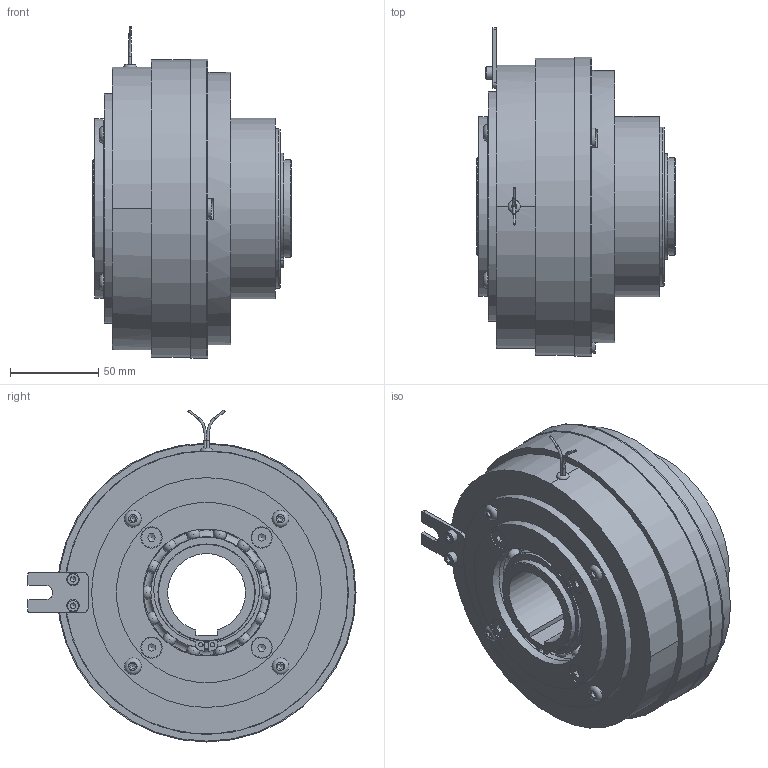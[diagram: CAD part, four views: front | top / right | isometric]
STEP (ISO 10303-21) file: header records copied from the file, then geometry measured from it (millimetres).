
FILE_DESCRIPTION(/* description */ (''),/* implementation_level */ '2;1');
FILE_NAME(/* name */ 'X:\INVENTOR\DISEGNI\08_Freni_Friz_Elettmag_Monodisco\08_26 EMSL_DF\EMSL_DF STEP\08_26_170_41 EMSL170_DF-R@STEP.stp',/* time_stamp */ '2018-04-24T09:49:33+02:00',/* author */ ('stefano'),/* organization */ (''),/* preprocessor_version */ 'ST-DEVELOPER v17',/* originating_system */ 'Autodesk Inventor 2018',/* authorisation */ '');
FILE_SCHEMA (('AUTOMOTIVE_DESIGN { 1 0 10303 214 3 1 1 }'));
Length unit declared in the file: millimetre
Products named in the file (1): 08_26_170_41 EMSL170_DF-R_Substitute_1
Bounding box: 112 x 185.5 x 187.72 mm (x, y, z)
Volume: 1241792.9 mm3; surface area: 302544.1 mm2
Topology: 2 solids, 2 shells, 729 faces, 2418 edges, 1642 vertices
Faces by surface type: plane 258, cylinder 238, torus 126, cone 55, sphere 50, bspline 2
Full cylindrical faces by diameter (mm): 1.154 x2, 1.5 x4, 2.5 x4, 3.5 x2, 4.917 x7, 6 x12, 6.5 x4, 6.647 x3, 7 x2, 9.5 x4, 10 x3, 10.5 x4, 11 x6, 11.34 x4, 12 x7, 52 x2, 55 x5, 63 x5, 66 x1, 66.2 x4, 72 x6, 78.8 x4, 80 x2, 90 x4, 92 x1, 99.5 x1, 100 x1, 102 x2, 105 x2, 110 x1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
Entity records: 32094 total; most frequent: CARTESIAN_POINT 10542, ORIENTED_EDGE 4590, DIRECTION 4359, EDGE_CURVE 2295, AXIS2_PLACEMENT_3D 1876, VERTEX_POINT 1643, CIRCLE 1148, EDGE_LOOP 979
